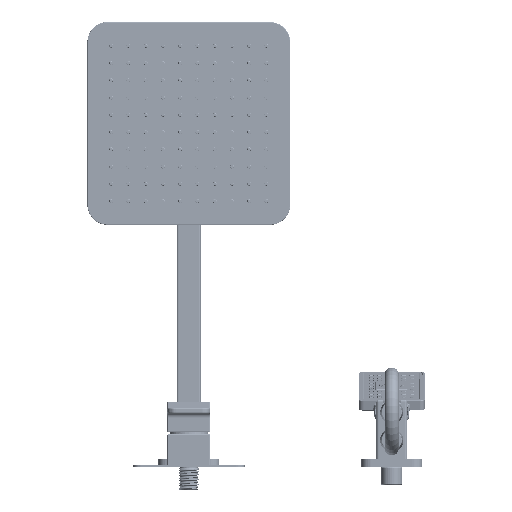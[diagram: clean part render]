
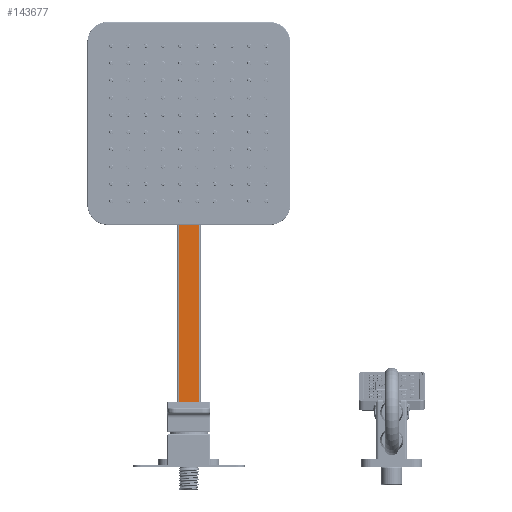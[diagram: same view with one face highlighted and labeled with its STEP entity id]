
A CAD part, front view. The second image highlights one B-rep face of the part: STEP entity #143677.
In plain terms, the highlighted planar face has unit normal (0, -1, 0).
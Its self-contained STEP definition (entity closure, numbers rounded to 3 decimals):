
#6678=PLANE('',#152890);
#10444=FACE_OUTER_BOUND('',#19248,.T.);
#19248=EDGE_LOOP('',(#97228,#97229,#97230,#97231));
#29247=LINE('',#223569,#38866);
#29254=LINE('',#223593,#38873);
#29255=LINE('',#223599,#38874);
#29256=LINE('',#223604,#38875);
#38866=VECTOR('',#172668,19.5);
#38873=VECTOR('',#172691,298.25);
#38874=VECTOR('',#172700,19.5);
#38875=VECTOR('',#172709,298.25);
#59146=VERTEX_POINT('',#223566);
#59147=VERTEX_POINT('',#223568);
#59156=VERTEX_POINT('',#223592);
#59157=VERTEX_POINT('',#223598);
#73784=EDGE_CURVE('',#59146,#59147,#29247,.T.);
#73796=EDGE_CURVE('',#59147,#59156,#29254,.T.);
#73799=EDGE_CURVE('',#59157,#59156,#29255,.T.);
#73802=EDGE_CURVE('',#59146,#59157,#29256,.T.);
#97228=ORIENTED_EDGE('',*,*,#73796,.F.);
#97229=ORIENTED_EDGE('',*,*,#73784,.F.);
#97230=ORIENTED_EDGE('',*,*,#73802,.T.);
#97231=ORIENTED_EDGE('',*,*,#73799,.T.);
#143677=ADVANCED_FACE('',(#10444),#6678,.T.);
#152890=AXIS2_PLACEMENT_3D('',#223605,#172710,#172711);
#172668=DIRECTION('',(-1.,0.,0.));
#172691=DIRECTION('',(0.,0.,1.));
#172700=DIRECTION('',(-1.,0.,0.));
#172709=DIRECTION('',(0.,0.,1.));
#172710=DIRECTION('center_axis',(0.,-1.,0.));
#172711=DIRECTION('ref_axis',(-1.,0.,0.));
#223566=CARTESIAN_POINT('',(21.5,364.5,-44.));
#223568=CARTESIAN_POINT('',(2.,364.5,-44.));
#223569=CARTESIAN_POINT('',(21.5,364.5,-44.));
#223592=CARTESIAN_POINT('',(2.,364.5,254.25));
#223593=CARTESIAN_POINT('',(2.,364.5,-44.));
#223598=CARTESIAN_POINT('',(21.5,364.5,254.25));
#223599=CARTESIAN_POINT('',(21.5,364.5,254.25));
#223604=CARTESIAN_POINT('',(21.5,364.5,-44.));
#223605=CARTESIAN_POINT('Origin',(11.75,364.5,105.125));
